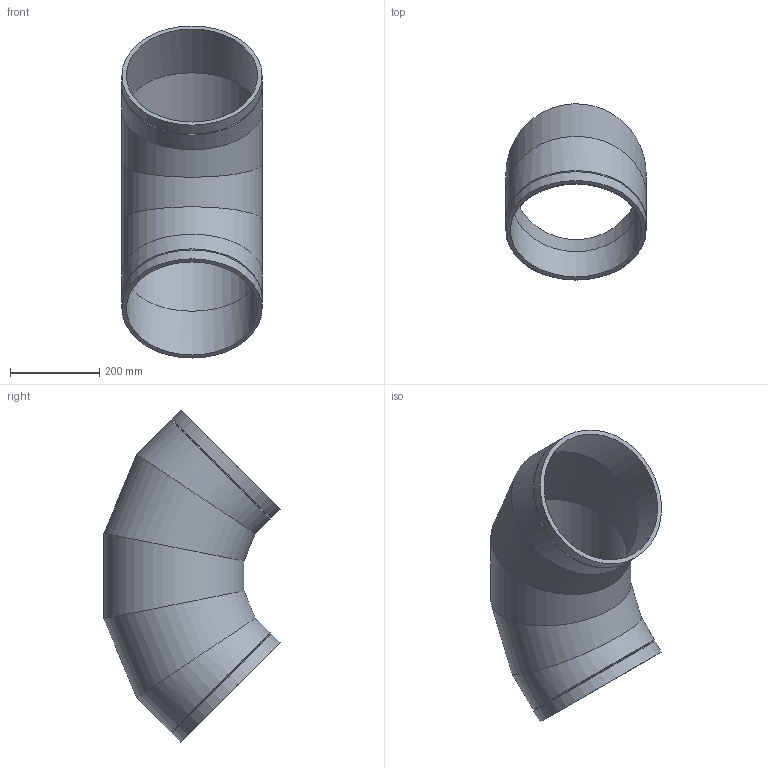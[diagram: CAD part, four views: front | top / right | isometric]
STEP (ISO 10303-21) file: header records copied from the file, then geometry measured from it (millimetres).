
FILE_DESCRIPTION(/* description */ (''),/* implementation_level */ '2;1');
FILE_NAME(/* name */ 'Z:\Geberit\Export\NewStep\372055.stp',/* time_stamp */ '2014-04-02T08:06:10+02:00',/* author */ ('Marco'),/* organization */ (''),/* preprocessor_version */ 'ST-DEVELOPER v15.2',/* originating_system */ 'Autodesk Inventor 2014',/* authorisation */ '');
FILE_SCHEMA (('AUTOMOTIVE_DESIGN { 1 0 10303 214 3 1 1 }'));
Length unit declared in the file: millimetre
Products named in the file (1): 372055
Bounding box: 315 x 395.56 x 746 mm (x, y, z)
Volume: 5693477.4 mm3; surface area: 1190080.5 mm2
Topology: 1 solids, 1 shells, 18 faces, 46 edges, 30 vertices
Faces by surface type: cylinder 12, cone 4, plane 2
Full cylindrical faces by diameter (mm): 295.4 x5, 315 x7
Entity records: 469 total; most frequent: DIRECTION 90, CARTESIAN_POINT 71, ORIENTED_EDGE 52, AXIS2_PLACEMENT_3D 45, EDGE_LOOP 36, VERTEX_POINT 26, EDGE_CURVE 26, FACE_BOUND 20
